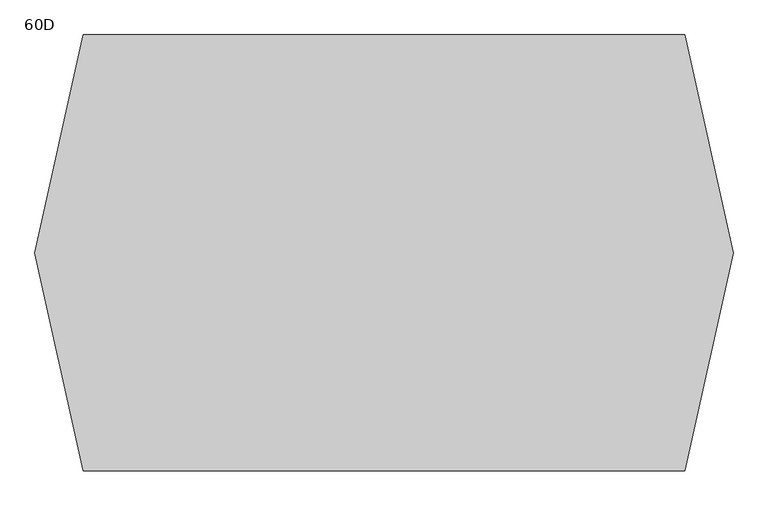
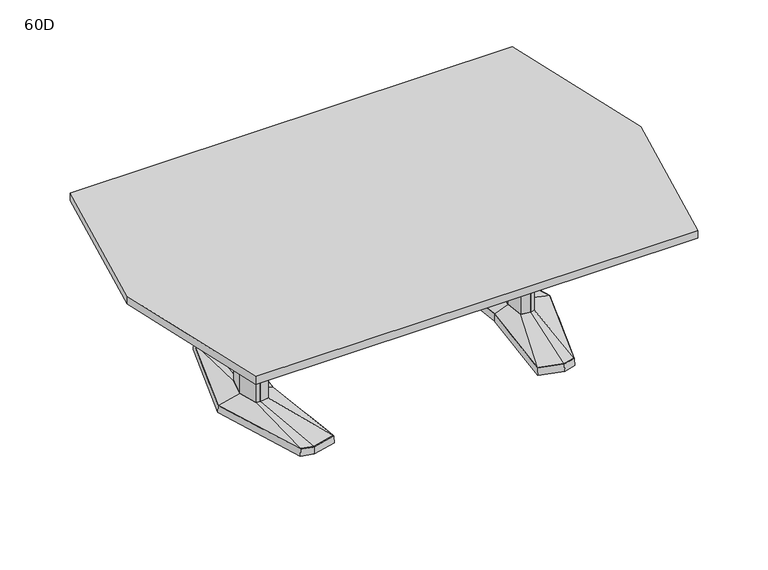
"""IFC4 building model written with IfcOpenShell, lengths in millimetres: furniture geometry, Coalesse_AM_Table_Conference_ETable2_Faceted_96in_AluminiumBase : 60D."""

import ifcopenshell
import ifcopenshell.guid

model = None  # the IFC model being written
_history = None  # IfcOwnerHistory: only IFC2X3 demands one
_inside = {}  # id of a spatial element -> (the spatial element, [elements in it])
_under = {}  # id of a project, library or spatial element -> (it, [spatial elements below it])
_declared = {}  # id of a project -> (the project, [libraries it declares])
_typed = {}  # id of a type object -> (the type object, [elements of that type])
_made_of = {}  # id of a material, layer set ... -> (it, [elements and type objects made of it])


def new_model(schema):
    """Start an empty IFC model of exactly this schema.

    Asked for "IFC4X3", IfcOpenShell would pick the latest addendum, in which some entities
    have other attributes; the version numbers below select the first issue.
    IFC2X3 requires an IfcOwnerHistory on every rooted entity: one is made here for all.
    """
    global model, _history
    if schema == "IFC4X3":
        model = ifcopenshell.file(schema_version=(4, 3, 0, 0))
    else:
        model = ifcopenshell.file(schema=schema)
    _inside.clear()
    _under.clear()
    _declared.clear()
    _typed.clear()
    _made_of.clear()
    _history = None
    if model.schema == "IFC2X3":
        org = make("IfcOrganization", Name="unknown")
        user = make(
            "IfcPersonAndOrganization",
            ThePerson=make("IfcPerson", FamilyName="unknown"),
            TheOrganization=org,
        )
        app = make(
            "IfcApplication",
            ApplicationDeveloper=org,
            Version="unknown",
            ApplicationFullName="unknown",
            ApplicationIdentifier="unknown",
        )
        _history = make(
            "IfcOwnerHistory",
            OwningUser=user,
            OwningApplication=app,
            ChangeAction="ADDED",
            CreationDate=0,
        )
    return model


def make(cls, **values):
    """One entity of the class cls with the attributes given. An attribute that is None is left unset."""
    return model.create_entity(
        cls, **{name: value for name, value in values.items() if value is not None}
    )


def rooted(cls, **values):
    """An entity with a GlobalId (a new one), such as an element, a storey or a relation."""
    return make(cls, GlobalId=ifcopenshell.guid.new(), OwnerHistory=_history, **values)


def si_unit(unit_type, name, prefix=None):
    """IfcSIUnit, for example si_unit("LENGTHUNIT", "METRE", prefix="MILLI")."""
    return make("IfcSIUnit", UnitType=unit_type, Prefix=prefix, Name=name)


def assignment(units):
    """IfcUnitAssignment: the units of a project."""
    return None if units is None else make("IfcUnitAssignment", Units=units)


def point(xyz):
    """IfcCartesianPoint."""
    return None if xyz is None else make("IfcCartesianPoint", Coordinates=xyz)


def direction(xyz):
    """IfcDirection."""
    return None if xyz is None else make("IfcDirection", DirectionRatios=xyz)


def frame(location, z_axis=None, x_axis=None):
    """IfcAxis2Placement3D, a coordinate frame: its origin and axes. An axis left out is left unset."""
    return make(
        "IfcAxis2Placement3D",
        Location=point(location),
        Axis=direction(z_axis),
        RefDirection=direction(x_axis),
    )


def origin():
    """The frame at (0, 0, 0) with its axes left unset."""
    return frame((0.0, 0.0, 0.0))


def place(relative_to, where):
    """IfcLocalPlacement: puts the frame where relative to a parent placement (None: the world)."""
    return make(
        "IfcLocalPlacement", PlacementRelTo=relative_to, RelativePlacement=where
    )


def context(
    kind, dimensions, precision=None, world=None, true_north=None, identifier=None
):
    """IfcGeometricRepresentationContext, for example the 3D "Model" context."""
    return make(
        "IfcGeometricRepresentationContext",
        ContextIdentifier=identifier,
        ContextType=kind,
        CoordinateSpaceDimension=dimensions,
        Precision=precision,
        WorldCoordinateSystem=world,
        TrueNorth=true_north,
    )


def project(units=None, contexts=None):
    """IfcProject with its units and contexts."""
    return rooted(
        "IfcProject",
        Name="project",
        RepresentationContexts=contexts,
        UnitsInContext=assignment(units),
    )


def spatial(cls, under=None, at=None, **own):
    """A site, building, storey or space (cls), placed at a placement, below another one or the project."""
    s = rooted(cls, ObjectPlacement=at, **own)
    if under is not None:
        _under.setdefault(under.id(), (under, []))[1].append(s)
    return s


def polyline(points):
    """IfcPolyline through the points."""
    return make("IfcPolyline", Points=[point(p) for p in points])


def outline(outer, holes=None, kind="AREA"):
    """IfcArbitraryClosedProfileDef: a profile drawn as a closed curve; with holes, ...WithVoids."""
    if holes is None:
        return make("IfcArbitraryClosedProfileDef", ProfileType=kind, OuterCurve=outer)
    return make(
        "IfcArbitraryProfileDefWithVoids",
        ProfileType=kind,
        OuterCurve=outer,
        InnerCurves=holes,
    )


def extrude(swept, where, along, depth):
    """IfcExtrudedAreaSolid: the profile swept, set in the frame where, extruded along a direction by depth."""
    return make(
        "IfcExtrudedAreaSolid",
        SweptArea=swept,
        Position=where,
        ExtrudedDirection=direction(along),
        Depth=depth,
    )


def faces_of(points, faces, orient=None, outer=None):
    """IfcFace entities. A face is a list of loops; a loop is a list of indices into points, from 0.

    orient and outer hold one flag for each loop. By default every Orientation is true, the
    first loop of a face is its IfcFaceOuterBound and the others are IfcFaceBound.
    """
    made = []
    for i, loops in enumerate(faces):
        bounds = []
        for j, loop in enumerate(loops):
            is_outer = j == 0 if outer is None else outer[i][j]
            bounds.append(
                make(
                    "IfcFaceOuterBound" if is_outer else "IfcFaceBound",
                    Bound=make("IfcPolyLoop", Polygon=[points[k] for k in loop]),
                    Orientation=True if orient is None else orient[i][j],
                )
            )
        made.append(make("IfcFace", Bounds=bounds))
    return made


def faceted_brep(points, faces, orient=None, outer=None, voids=None):
    """IfcFacetedBrep: a solid bounded by flat faces; with voids (closed shells), ...WithVoids."""
    shared = [point(p) for p in points]
    hull = make("IfcClosedShell", CfsFaces=faces_of(shared, faces, orient, outer))
    if voids is None:
        return make("IfcFacetedBrep", Outer=hull)
    return make(
        "IfcFacetedBrepWithVoids",
        Outer=hull,
        Voids=[
            make(cls, CfsFaces=faces_of(shared, fs, o, b)) for cls, fs, o, b in voids
        ],
    )


def shape(context_of_items, identifier, shape_type, items):
    """IfcShapeRepresentation: the items that make up one representation, for example the "Body"."""
    return make(
        "IfcShapeRepresentation",
        ContextOfItems=context_of_items,
        RepresentationIdentifier=identifier,
        RepresentationType=shape_type,
        Items=items,
    )


def source(mapping_origin, context_of_items, identifier, shape_type, items):
    """IfcRepresentationMap: a shape defined once, which mapped items show again and again."""
    return make(
        "IfcRepresentationMap",
        MappingOrigin=mapping_origin,
        MappedRepresentation=shape(context_of_items, identifier, shape_type, items),
    )


def transform(
    local_origin,
    x_axis=None,
    y_axis=None,
    z_axis=None,
    scale=None,
    scale2=None,
    scale3=None,
    uniform=True,
):
    """IfcCartesianTransformationOperator3D, or its non-uniform kind. x_axis, y_axis, z_axis: its Axis1, 2, 3."""
    if uniform:
        return make(
            "IfcCartesianTransformationOperator3D",
            Axis1=direction(x_axis),
            Axis2=direction(y_axis),
            LocalOrigin=point(local_origin),
            Scale=scale,
            Axis3=direction(z_axis),
        )
    return make(
        "IfcCartesianTransformationOperator3DnonUniform",
        Axis1=direction(x_axis),
        Axis2=direction(y_axis),
        LocalOrigin=point(local_origin),
        Scale=scale,
        Axis3=direction(z_axis),
        Scale2=scale2,
        Scale3=scale3,
    )


def mapped(mapping_source, mapping_target):
    """IfcMappedItem: shows the shape of a source again, moved by a transform."""
    return make(
        "IfcMappedItem", MappingSource=mapping_source, MappingTarget=mapping_target
    )


def made_of(thing, what):
    """Note that an element or type object is made of a material, layer set ...; save() writes the relation."""
    if what is not None:
        _made_of.setdefault(what.id(), (what, []))[1].append(thing)
    return thing


def element(
    cls,
    number,
    at=None,
    inside=None,
    cuts=None,
    type_object=None,
    material=None,
    context=None,
    identifier="Body",
    shape_type=None,
    held_by="IfcProductDefinitionShape",
    body=None,
    shapes=None,
    **own,
):
    """One element of the class cls, such as IfcWall. Its Tag is "e" and its number.

    at: its placement. inside: the storey or other place that contains it. cuts: it is an
    opening in that element (IfcRelVoidsElement). A single representation is given by context,
    identifier, shape_type and body (its items); several are given by shapes. held_by: the class
    of the entity that holds the representations. save() writes the other relations.
    """
    e = rooted(cls, Tag="e%d" % number, ObjectPlacement=at, **own)
    if body is not None:
        shapes = [shape(context, identifier, shape_type, body)]
    if shapes is not None:
        e.Representation = make(held_by, Representations=shapes)
    if inside is not None:
        _inside.setdefault(inside.id(), (inside, []))[1].append(e)
    if cuts is not None:
        rooted(
            "IfcRelVoidsElement", RelatingBuildingElement=cuts, RelatedOpeningElement=e
        )
    if type_object is not None:
        _typed.setdefault(type_object.id(), (type_object, []))[1].append(e)
    return made_of(e, material)


def aggregate(whole, parts):
    """IfcRelAggregates: a whole, such as a stair, and the parts it consists of."""
    return rooted("IfcRelAggregates", RelatingObject=whole, RelatedObjects=parts)


def save(model, path):
    """Write the relations noted so far, then the file.

    IfcRelAggregates (storeys below a building ...), IfcRelContainedInSpatialStructure (elements
    in a storey), IfcRelDefinesByType, IfcRelAssociatesMaterial and IfcRelDeclares: one each for
    every whole, place, type object, material and project.
    """
    for whole, parts in _under.values():
        aggregate(whole, parts)
    for where, things in _inside.values():
        rooted(
            "IfcRelContainedInSpatialStructure",
            RelatedElements=things,
            RelatingStructure=where,
        )
    for kind, things in _typed.values():
        rooted("IfcRelDefinesByType", RelatedObjects=things, RelatingType=kind)
    for what, things in _made_of.values():
        rooted("IfcRelAssociatesMaterial", RelatedObjects=things, RelatingMaterial=what)
    for by, libraries in _declared.values():
        rooted("IfcRelDeclares", RelatingContext=by, RelatedDefinitions=libraries)
    model.write(path)


def plane_surface(at):
    """IfcPlane: the flat surface through the origin of the frame at, square to its z axis."""
    return make("IfcPlane", Position=at)


def spline_surface(u_degree, v_degree, points, u_multiplicities, v_multiplicities, u_knots, v_knots, weights=None):
    """IfcBSplineSurfaceWithKnots; with weights, IfcRationalBSplineSurfaceWithKnots. points: one row for each step in u."""
    own = dict(
        UDegree=u_degree,
        VDegree=v_degree,
        ControlPointsList=[[point(p) for p in row] for row in points],
        SurfaceForm="UNSPECIFIED",
        UClosed=False,
        VClosed=False,
        SelfIntersect=False,
        UMultiplicities=u_multiplicities,
        VMultiplicities=v_multiplicities,
        UKnots=u_knots,
        VKnots=v_knots,
        KnotSpec="UNSPECIFIED",
    )
    if weights is None:
        return make("IfcBSplineSurfaceWithKnots", **own)
    return make("IfcRationalBSplineSurfaceWithKnots", WeightsData=weights, **own)


def advanced_brep(points, edges, surfaces, faces):
    """IfcAdvancedBrep: a solid bounded by faces that lie on surfaces and meet in shared edges.

    An edge is (start, end): straight between two places in points (the first is 0);
    or (start, end, curve); or (start, end, curve, False) where it runs against its curve.
    A face is (place in surfaces, loops), or (place, loops, False) where it looks against
    its surface's normal. A loop lists edges by number (the first is 1), with a minus sign
    where the edge is run from its end to its start. The first loop is the outer one.
    """
    corners = [point(p) for p in points]
    vertices = [make("IfcVertexPoint", VertexGeometry=c) for c in corners]
    made = []
    for start, end, *more in edges:
        made.append(
            make(
                "IfcEdgeCurve",
                EdgeStart=vertices[start],
                EdgeEnd=vertices[end],
                EdgeGeometry=more[0] if more else make("IfcPolyline", Points=[corners[start], corners[end]]),
                SameSense=more[1] if len(more) > 1 else True,
            )
        )
    hull = []
    for where, loops, *sense in faces:
        bounds = []
        for j, loop in enumerate(loops):
            ring = [make("IfcOrientedEdge", EdgeElement=made[abs(k) - 1], Orientation=k > 0) for k in loop]
            bounds.append(
                make(
                    "IfcFaceOuterBound" if j == 0 else "IfcFaceBound",
                    Bound=make("IfcEdgeLoop", EdgeList=ring),
                    Orientation=True,
                )
            )
        hull.append(make("IfcAdvancedFace", Bounds=bounds, FaceSurface=surfaces[where], SameSense=sense[0] if sense else True))
    return make("IfcAdvancedBrep", Outer=make("IfcClosedShell", CfsFaces=hull))


def furniture_60d_133c9e18(model_context):
    return source(origin(), model_context, "Body", "SolidModel", [
        faceted_brep([(594.6806835, 455.5848221, 38.1), (485.1031277, 426.2263816, 38.1), (526.2663717, 0.0, 38.1), (485.1031277, -426.2263816, 38.1), (594.6806835, -455.5848221, 38.1), (650.8070396, -440.5478297, 38.1), (788.1184269, 0.0, 38.1), (650.8070396, 440.5478297, 38.1), (594.6806754, 457.2283104, 3.175), (652.0624472, 441.8549756, 3.175), (789.78125, 0.0, 3.175), (652.0624472, -441.8549756, 3.175), (594.6806754, -457.2283104, 3.175), (483.39375, -427.4118891, 3.175), (524.6714856, 0.0, 3.175), (483.39375, 427.4118891, 3.175), (598.270115, 428.3273875, 3.175), (493.2218228, 402.1057253, 3.175), (501.340518, 377.985069, 3.175), (601.8595466, 401.0699529, 3.175), (652.4191725, 387.524361, 3.175), (651.6131061, 414.0360954, 3.175), (598.270115, -428.3273875, 3.175), (651.6131061, -414.0360954, 3.175), (652.4191725, -387.524361, 3.175), (601.8595466, -401.0699529, 3.175), (501.340518, -377.985069, 3.175), (493.2218228, -402.1057253, 3.175), (724.8653621, 0.0, 3.175), (692.5959611, 120.4193755, 3.175), (643.9487222, 133.471665, 3.175), (564.0680526, 119.4176561, 3.175), (552.9368466, 0.0, 3.175), (564.0680526, -119.4176561, 3.175), (643.9487222, -133.471665, 3.175), (692.5959611, -120.4193755, 3.175), (598.270115, 428.3273875, 0.0), (651.6131061, 414.0360954, 0.0), (652.4191725, 387.524361, 0.0), (601.8595466, 401.0699529, 0.0), (501.340518, 377.985069, 0.0), (493.2218228, 402.1057253, 0.0), (598.270115, -428.3273875, 0.0), (493.2218228, -402.1057253, 0.0), (501.340518, -377.985069, 0.0), (601.8595466, -401.0699529, 0.0), (652.4191725, -387.524361, 0.0), (651.6131061, -414.0360954, 0.0), (724.8653621, 0.0, 0.0), (692.5959611, -120.4193755, 0.0), (643.9487222, -133.471665, 0.0), (564.0680526, -119.4176561, 0.0), (552.9368466, 0.0, 0.0), (564.0680526, 119.4176561, 0.0), (643.9487222, 133.471665, 0.0), (692.5959611, 120.4193755, 0.0)], [[[0, 1, 2, 3, 4, 5, 6, 7]], [[8, 9, 10, 11, 12, 13, 14, 15], [16, 17, 18, 19, 20, 21], [22, 23, 24, 25, 26, 27], [28, 29, 30, 31, 32, 33, 34, 35]], [[7, 9, 8, 0]], [[6, 10, 9, 7]], [[5, 11, 10, 6]], [[4, 12, 11, 5]], [[3, 13, 12, 4]], [[2, 14, 13, 3]], [[1, 15, 14, 2]], [[0, 8, 15, 1]], [[36, 37, 38, 39, 40, 41]], [[42, 43, 44, 45, 46, 47]], [[48, 49, 50, 51, 52, 53, 54, 55]], [[36, 16, 21, 37]], [[37, 21, 20, 38]], [[38, 20, 19, 39]], [[39, 19, 18, 40]], [[40, 18, 17, 41]], [[41, 17, 16, 36]], [[42, 22, 27, 43]], [[43, 27, 26, 44]], [[44, 26, 25, 45]], [[45, 25, 24, 46]], [[46, 24, 23, 47]], [[47, 23, 22, 42]], [[48, 28, 35, 49]], [[49, 35, 34, 50]], [[50, 34, 33, 51]], [[51, 33, 32, 52]], [[52, 32, 31, 53]], [[53, 31, 30, 54]], [[54, 30, 29, 55]], [[55, 29, 28, 48]]]),
        faceted_brep([(685.4210836, 0.0, 698.5), (661.4858546, 89.3188359, 698.5), (644.6324984, 93.8406728, 698.5), (642.2326511, 94.4845635, 698.5), (599.305146, 86.9320037, 698.5), (591.2020056, 0.0, 698.5), (599.305146, -86.9320037, 698.5), (642.2326511, -94.4845635, 698.5), (644.6324984, -93.8406728, 698.5), (661.4858546, -89.3188359, 698.5), (685.4210836, 0.0, 63.5), (661.4858546, -89.3188359, 63.5), (644.6324984, -93.8406728, 63.5), (642.2326511, -94.4845635, 63.5), (599.305146, -86.9320037, 63.5), (591.2020056, 0.0, 63.5), (599.305146, 86.9320037, 63.5), (642.2326511, 94.4845635, 63.5), (644.6324984, 93.8406728, 63.5), (661.4858546, 89.3188359, 63.5)], [[[0, 1, 2, 3, 4, 5, 6, 7, 8, 9]], [[10, 11, 12, 13, 14, 15, 16, 17, 18, 19]], [[9, 11, 10, 0]], [[8, 12, 11, 9]], [[7, 13, 12, 8]], [[6, 14, 13, 7]], [[5, 15, 14, 6]], [[4, 16, 15, 5]], [[3, 17, 16, 4]], [[2, 18, 17, 3]], [[1, 19, 18, 2]], [[0, 10, 19, 1]]]),
        advanced_brep(
        [(642.2326511, 94.4845635, 63.5), (599.305146, 86.9320037, 63.5), (591.2020056, 0.0, 63.5), (599.305146, -86.9320037, 63.5), (642.2326511, -94.4845635, 63.5), (661.4858546, -89.3188359, 63.5), (685.4210836, 0.0, 63.5), (661.4858546, 89.3188359, 63.5), (594.6806835, 455.5848221, 38.1), (650.8070396, 440.5478297, 38.1), (788.1184269, 0.0, 38.1), (650.8070396, -440.5478297, 38.1), (594.6806835, -455.5848221, 38.1), (485.1031277, -426.2263816, 38.1), (526.2663717, 0.0, 38.1), (485.1031277, 426.2263816, 38.1)],
        [
            (0, 1),
            (1, 2),
            (2, 3),
            (3, 4),
            (4, 5),
            (5, 6),
            (6, 7),
            (7, 0),
            (8, 9),
            (9, 10),
            (10, 11),
            (11, 12),
            (12, 13),
            (13, 14),
            (14, 15),
            (15, 8),
            (8, 0),
            (7, 9),
            (6, 10),
            (5, 11),
            (4, 12),
            (3, 13),
            (2, 14),
            (1, 15),
        ],
        [
            plane_surface(frame((635.3337991, 0.0, 63.5), z_axis=(0.0, 0.0, 1.0), x_axis=(-0.25884244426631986, -0.9659195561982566, 0.0))),
            plane_surface(frame((596.9458125, 0.0, 38.1), z_axis=(0.0, 0.0, -1.0), x_axis=(-0.25884244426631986, -0.9659195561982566, 0.0))),
            spline_surface(1, 1, [[(594.6806835, 455.5848221, 38.1), (650.8070396, 440.5478297, 38.1)], [(642.2326511, 94.4845635, 63.5), (661.4858546, 89.3188359, 63.5)]], [2, 2], [2, 2], [0.0, 1.0], [0.0, 1.0]),
            spline_surface(1, 1, [[(650.8070396, 440.5478297, 38.1), (788.1184269, 0.0, 38.1)], [(661.4858546, 89.3188359, 63.5), (685.4210836, 0.0, 63.5)]], [2, 2], [2, 2], [0.0, 1.0], [0.0, 1.0]),
            spline_surface(1, 1, [[(788.1184269, 0.0, 38.1), (650.8070396, -440.5478297, 38.1)], [(685.4210836, 0.0, 63.5), (661.4858546, -89.3188359, 63.5)]], [2, 2], [2, 2], [0.0, 1.0], [0.0, 1.0]),
            spline_surface(1, 1, [[(650.8070396, -440.5478297, 38.1), (594.6806835, -455.5848221, 38.1)], [(661.4858546, -89.3188359, 63.5), (642.2326511, -94.4845635, 63.5)]], [2, 2], [2, 2], [0.0, 1.0], [0.0, 1.0]),
            spline_surface(1, 1, [[(594.6806835, -455.5848221, 38.1), (485.1031277, -426.2263816, 38.1)], [(642.2326511, -94.4845635, 63.5), (599.305146, -86.9320037, 63.5)]], [2, 2], [2, 2], [0.0, 1.0], [0.0, 1.0]),
            spline_surface(1, 1, [[(485.1031277, -426.2263816, 38.1), (526.2663717, 0.0, 38.1)], [(599.305146, -86.9320037, 63.5), (591.2020056, 0.0, 63.5)]], [2, 2], [2, 2], [0.0, 1.0], [0.0, 1.0]),
            spline_surface(1, 1, [[(526.2663717, 0.0, 38.1), (485.1031277, 426.2263816, 38.1)], [(591.2020056, 0.0, 63.5), (599.305146, 86.9320037, 63.5)]], [2, 2], [2, 2], [0.0, 1.0], [0.0, 1.0]),
            spline_surface(1, 1, [[(485.1031277, 426.2263816, 38.1), (594.6806835, 455.5848221, 38.1)], [(599.305146, 86.9320037, 63.5), (642.2326511, 94.4845635, 63.5)]], [2, 2], [2, 2], [0.0, 1.0], [0.0, 1.0]),
        ],
        [
            (0, [[1, 2, 3, 4, 5, 6, 7, 8]]),
            (1, [[9, 10, 11, 12, 13, 14, 15, 16]]),
            (2, [[17, -8, 18, -9]]),
            (3, [[-18, -7, 19, -10]]),
            (4, [[-19, -6, 20, -11]]),
            (5, [[-20, -5, 21, -12]]),
            (6, [[-21, -4, 22, -13]]),
            (7, [[-22, -3, 23, -14]]),
            (8, [[-23, -2, 24, -15]]),
            (9, [[-24, -1, -17, -16]]),
        ],
    ),
        faceted_brep([(-594.6806835, 455.5848221, 38.1), (-650.8070396, 440.5478297, 38.1), (-788.1184269, 0.0, 38.1), (-650.8070396, -440.5478297, 38.1), (-594.6806835, -455.5848221, 38.1), (-485.1031277, -426.2263816, 38.1), (-526.2663717, 0.0, 38.1), (-485.1031277, 426.2263816, 38.1), (-594.6806754, 457.2283104, 3.175), (-483.39375, 427.4118891, 3.175), (-524.6714856, 0.0, 3.175), (-483.39375, -427.4118891, 3.175), (-594.6806754, -457.2283104, 3.175), (-652.0624472, -441.8549756, 3.175), (-789.78125, 0.0, 3.175), (-652.0624472, 441.8549756, 3.175), (-598.270115, 428.3273875, 3.175), (-651.6131061, 414.0360954, 3.175), (-652.4191725, 387.524361, 3.175), (-601.8595466, 401.0699529, 3.175), (-501.340518, 377.985069, 3.175), (-493.2218228, 402.1057253, 3.175), (-598.270115, -428.3273875, 3.175), (-493.2218228, -402.1057253, 3.175), (-501.340518, -377.985069, 3.175), (-601.8595466, -401.0699529, 3.175), (-652.4191725, -387.524361, 3.175), (-651.6131061, -414.0360954, 3.175), (-724.8653621, 0.0, 3.175), (-692.5959611, -120.4193755, 3.175), (-643.9487222, -133.471665, 3.175), (-564.0680526, -119.4176561, 3.175), (-552.9368466, 0.0, 3.175), (-564.0680526, 119.4176561, 3.175), (-643.9487222, 133.471665, 3.175), (-692.5959611, 120.4193755, 3.175), (-598.270115, 428.3273875, 0.0), (-493.2218228, 402.1057253, 0.0), (-501.340518, 377.985069, 0.0), (-601.8595466, 401.0699529, 0.0), (-652.4191725, 387.524361, 0.0), (-651.6131061, 414.0360954, 0.0), (-598.270115, -428.3273875, 0.0), (-651.6131061, -414.0360954, 0.0), (-652.4191725, -387.524361, 0.0), (-601.8595466, -401.0699529, 0.0), (-501.340518, -377.985069, 0.0), (-493.2218228, -402.1057253, 0.0), (-724.8653621, 0.0, 0.0), (-692.5959611, 120.4193755, 0.0), (-643.9487222, 133.471665, 0.0), (-564.0680526, 119.4176561, 0.0), (-552.9368466, 0.0, 0.0), (-564.0680526, -119.4176561, 0.0), (-643.9487222, -133.471665, 0.0), (-692.5959611, -120.4193755, 0.0)], [[[0, 1, 2, 3, 4, 5, 6, 7]], [[8, 9, 10, 11, 12, 13, 14, 15], [16, 17, 18, 19, 20, 21], [22, 23, 24, 25, 26, 27], [28, 29, 30, 31, 32, 33, 34, 35]], [[1, 0, 8, 15]], [[2, 1, 15, 14]], [[3, 2, 14, 13]], [[4, 3, 13, 12]], [[5, 4, 12, 11]], [[6, 5, 11, 10]], [[7, 6, 10, 9]], [[0, 7, 9, 8]], [[36, 37, 38, 39, 40, 41]], [[42, 43, 44, 45, 46, 47]], [[48, 49, 50, 51, 52, 53, 54, 55]], [[36, 41, 17, 16]], [[41, 40, 18, 17]], [[40, 39, 19, 18]], [[39, 38, 20, 19]], [[38, 37, 21, 20]], [[37, 36, 16, 21]], [[42, 47, 23, 22]], [[47, 46, 24, 23]], [[46, 45, 25, 24]], [[45, 44, 26, 25]], [[44, 43, 27, 26]], [[43, 42, 22, 27]], [[48, 55, 29, 28]], [[55, 54, 30, 29]], [[54, 53, 31, 30]], [[53, 52, 32, 31]], [[52, 51, 33, 32]], [[51, 50, 34, 33]], [[50, 49, 35, 34]], [[49, 48, 28, 35]]]),
        faceted_brep([(-685.4210836, 0.0, 698.5), (-661.4858546, -89.3188359, 698.5), (-644.6324984, -93.8406728, 698.5), (-642.2326511, -94.4845635, 698.5), (-599.305146, -86.9320037, 698.5), (-591.2020056, 0.0, 698.5), (-599.305146, 86.9320037, 698.5), (-642.2326511, 94.4845635, 698.5), (-644.6324984, 93.8406728, 698.5), (-661.4858546, 89.3188359, 698.5), (-685.4210836, 0.0, 63.5), (-661.4858546, 89.3188359, 63.5), (-644.6324984, 93.8406728, 63.5), (-642.2326511, 94.4845635, 63.5), (-599.305146, 86.9320037, 63.5), (-591.2020056, 0.0, 63.5), (-599.305146, -86.9320037, 63.5), (-642.2326511, -94.4845635, 63.5), (-644.6324984, -93.8406728, 63.5), (-661.4858546, -89.3188359, 63.5)], [[[0, 1, 2, 3, 4, 5, 6, 7, 8, 9]], [[10, 11, 12, 13, 14, 15, 16, 17, 18, 19]], [[1, 0, 10, 19]], [[2, 1, 19, 18]], [[3, 2, 18, 17]], [[4, 3, 17, 16]], [[5, 4, 16, 15]], [[6, 5, 15, 14]], [[7, 6, 14, 13]], [[8, 7, 13, 12]], [[9, 8, 12, 11]], [[0, 9, 11, 10]]]),
        advanced_brep(
        [(-642.2326511, 94.4845635, 63.5), (-661.4858546, 89.3188359, 63.5), (-685.4210836, 0.0, 63.5), (-661.4858546, -89.3188359, 63.5), (-642.2326511, -94.4845635, 63.5), (-599.305146, -86.9320037, 63.5), (-591.2020056, 0.0, 63.5), (-599.305146, 86.9320037, 63.5), (-594.6806835, 455.5848221, 38.1), (-485.1031277, 426.2263816, 38.1), (-526.2663717, 0.0, 38.1), (-485.1031277, -426.2263816, 38.1), (-594.6806835, -455.5848221, 38.1), (-650.8070396, -440.5478297, 38.1), (-788.1184269, 0.0, 38.1), (-650.8070396, 440.5478297, 38.1)],
        [
            (0, 1),
            (1, 2),
            (2, 3),
            (3, 4),
            (4, 5),
            (5, 6),
            (6, 7),
            (7, 0),
            (8, 9),
            (9, 10),
            (10, 11),
            (11, 12),
            (12, 13),
            (13, 14),
            (14, 15),
            (15, 8),
            (15, 1),
            (0, 8),
            (14, 2),
            (13, 3),
            (12, 4),
            (11, 5),
            (10, 6),
            (9, 7),
        ],
        [
            plane_surface(frame((-635.3337991, 0.0, 63.5), z_axis=(0.0, 0.0, 1.0), x_axis=(0.25884244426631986, -0.9659195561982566, 0.0))),
            plane_surface(frame((-596.9458125, 0.0, 38.1), z_axis=(0.0, 0.0, -1.0), x_axis=(0.25884244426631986, -0.9659195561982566, 0.0))),
            spline_surface(1, 1, [[(-594.6806835, 455.5848221, 38.1), (-642.2326511, 94.4845635, 63.5)], [(-650.8070396, 440.5478297, 38.1), (-661.4858546, 89.3188359, 63.5)]], [2, 2], [2, 2], [0.0, 1.0], [0.0, 1.0]),
            spline_surface(1, 1, [[(-650.8070396, 440.5478297, 38.1), (-661.4858546, 89.3188359, 63.5)], [(-788.1184269, 0.0, 38.1), (-685.4210836, 0.0, 63.5)]], [2, 2], [2, 2], [0.0, 1.0], [0.0, 1.0]),
            spline_surface(1, 1, [[(-788.1184269, 0.0, 38.1), (-685.4210836, 0.0, 63.5)], [(-650.8070396, -440.5478297, 38.1), (-661.4858546, -89.3188359, 63.5)]], [2, 2], [2, 2], [0.0, 1.0], [0.0, 1.0]),
            spline_surface(1, 1, [[(-650.8070396, -440.5478297, 38.1), (-661.4858546, -89.3188359, 63.5)], [(-594.6806835, -455.5848221, 38.1), (-642.2326511, -94.4845635, 63.5)]], [2, 2], [2, 2], [0.0, 1.0], [0.0, 1.0]),
            spline_surface(1, 1, [[(-594.6806835, -455.5848221, 38.1), (-642.2326511, -94.4845635, 63.5)], [(-485.1031277, -426.2263816, 38.1), (-599.305146, -86.9320037, 63.5)]], [2, 2], [2, 2], [0.0, 1.0], [0.0, 1.0]),
            spline_surface(1, 1, [[(-485.1031277, -426.2263816, 38.1), (-599.305146, -86.9320037, 63.5)], [(-526.2663717, 0.0, 38.1), (-591.2020056, 0.0, 63.5)]], [2, 2], [2, 2], [0.0, 1.0], [0.0, 1.0]),
            spline_surface(1, 1, [[(-526.2663717, 0.0, 38.1), (-591.2020056, 0.0, 63.5)], [(-485.1031277, 426.2263816, 38.1), (-599.305146, 86.9320037, 63.5)]], [2, 2], [2, 2], [0.0, 1.0], [0.0, 1.0]),
            spline_surface(1, 1, [[(-485.1031277, 426.2263816, 38.1), (-599.305146, 86.9320037, 63.5)], [(-594.6806835, 455.5848221, 38.1), (-642.2326511, 94.4845635, 63.5)]], [2, 2], [2, 2], [0.0, 1.0], [0.0, 1.0]),
        ],
        [
            (0, [[1, 2, 3, 4, 5, 6, 7, 8]]),
            (1, [[9, 10, 11, 12, 13, 14, 15, 16]]),
            (2, [[-16, 17, -1, 18]]),
            (3, [[-15, 19, -2, -17]]),
            (4, [[-14, 20, -3, -19]]),
            (5, [[-13, 21, -4, -20]]),
            (6, [[-12, 22, -5, -21]]),
            (7, [[-11, 23, -6, -22]]),
            (8, [[-10, 24, -7, -23]]),
            (9, [[-9, -18, -8, -24]]),
        ],
    ),
        extrude(outline(polyline([(96.8375, 698.5), (103.1875, 698.5), (103.1875, 476.25), (-103.1875, 476.25), (-103.1875, 698.5), (-96.8375, 698.5), (-96.8375, 482.6), (96.8375, 482.6), (96.8375, 698.5)])), frame((-597.9364207, 0.0, 0.0), z_axis=(1.0, 0.0, 0.0), x_axis=(0.0, 1.0, 0.0)), (0.0, 0.0, 1.0), 1195.8728415),
        extrude(outline(polyline([(1050.2677242, 762.0), (1219.2, 0.0), (1050.2677242, -762.0), (-1050.2677242, -762.0), (-1219.2, 0.0), (-1050.2677242, 762.0), (1050.2677242, 762.0)])), frame((0.0, 0.0, 698.5), z_axis=(0.0, 0.0, 1.0), x_axis=(1.0, 0.0, 0.0)), (0.0, 0.0, 1.0), 38.1),
    ])


if __name__ == "__main__":
    model = new_model("IFC4")
    model_context = context("Model", 3, world=origin())
    ifc_project = project(units=[si_unit("LENGTHUNIT", "METRE", prefix="MILLI")], contexts=[model_context])
    site = spatial("IfcSite", under=ifc_project)
    building = spatial("IfcBuilding", under=site)
    placement = place(None, origin())
    furniture_60d_shape = furniture_60d_133c9e18(model_context)
    element("IfcFurniture", 1, ObjectType="Coalesse_AM_Table_Conference_ETable2_Faceted_96in_AluminiumBase : 60D", at=placement, inside=building, context=model_context, shape_type="MappedRepresentation", body=[
        mapped(furniture_60d_shape, transform((0.0, 0.0, 0.0), x_axis=(1.0, 0.0, 0.0), y_axis=(0.0, 1.0, 0.0), z_axis=(0.0, 0.0, 1.0))),
    ])
    save(model, "model.ifc")
